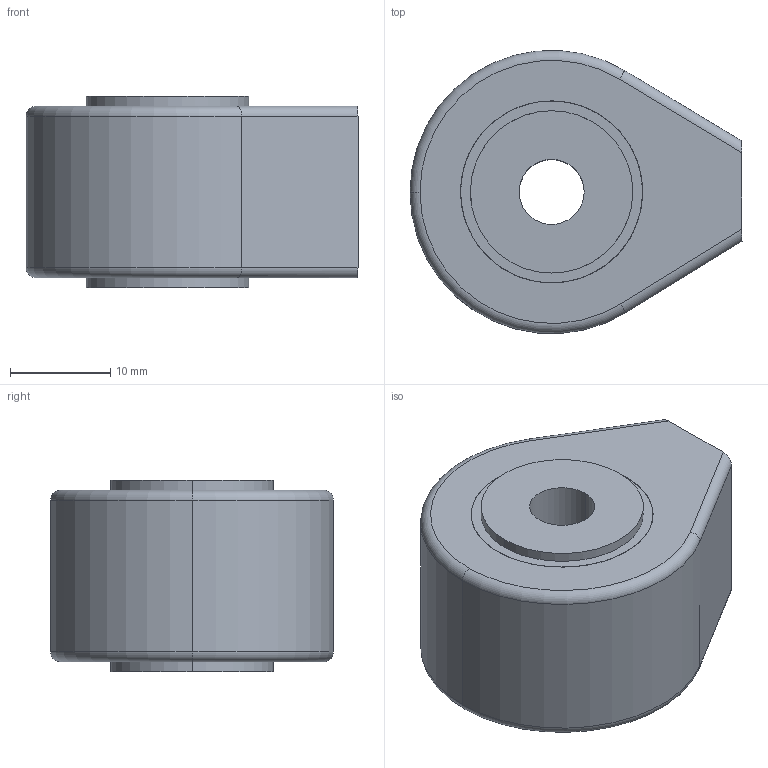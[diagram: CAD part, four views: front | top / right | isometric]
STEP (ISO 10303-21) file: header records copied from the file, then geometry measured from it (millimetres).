
FILE_DESCRIPTION (( 'STEP AP214' ), '1' );
FILE_NAME ('DW-TRHT06-XXXX Triggy HT06.STEP', '2022-02-25T15:30:27', ( '' ), ( '' ), 'SwSTEP 2.0', 'SolidWorks 2021', '' );
FILE_SCHEMA (( 'AUTOMOTIVE_DESIGN' ));
Length unit declared in the file: millimetre
Products named in the file (4): DW-TRHT06-XXXX Triggy HT06; DW-TRENXX-0000-Enrobage simplifie TRIGGYS_HT06; DW-TRBAXX-XXXX- BAGUE SIMPLIFIEE_HT06; DW-TRENXX-XXXX- ENTRETOISE SIMPLIFIEE_HT06
Assembly tree (3 placements, depth 2):
  DW-TRHT06-XXXX Triggy HT06
    DW-TRENXX-XXXX- ENTRETOISE SIMPLIFIEE_HT06
    DW-TRBAXX-XXXX- BAGUE SIMPLIFIEE_HT06
    DW-TRENXX-0000-Enrobage simplifie TRIGGYS_HT06
Bounding box: 33.17 x 28.25 x 19.1 mm (x, y, z)
Volume: 11948.7 mm3; surface area: 7145.4 mm2
Topology: 3 solids, 3 shells, 205 faces, 546 edges, 362 vertices
Faces by surface type: bspline 97, plane 88, cylinder 16, torus 4
Entity records: 9142 total; most frequent: CARTESIAN_POINT 2609, ORIENTED_EDGE 1092, DIRECTION 603, EDGE_CURVE 546, VERTEX_POINT 362, VECTOR 307, LINE 307, EDGE_LOOP 226
